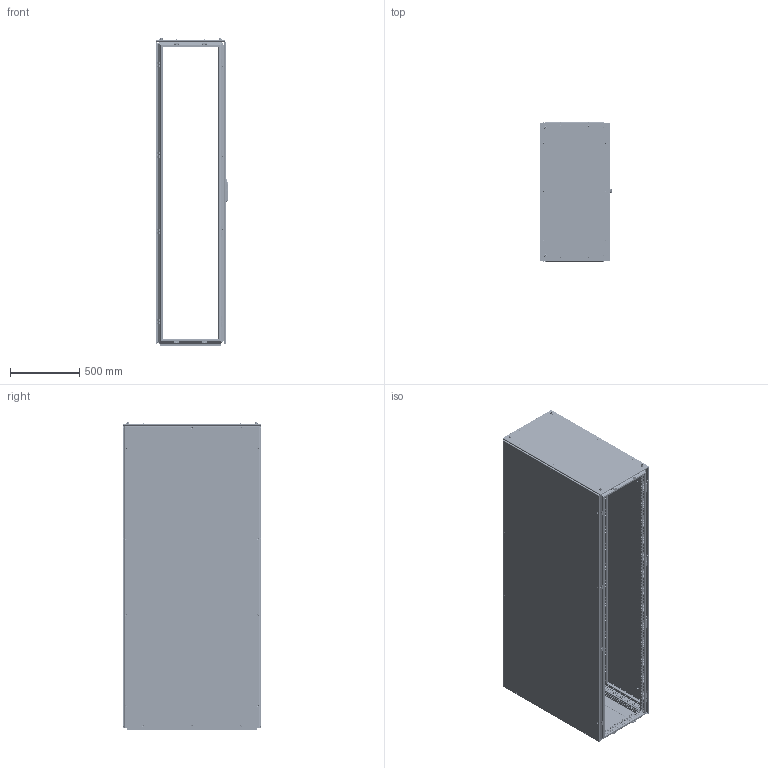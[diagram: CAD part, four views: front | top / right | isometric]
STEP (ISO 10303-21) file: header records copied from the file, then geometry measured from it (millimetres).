
FILE_DESCRIPTION(('STEP AP203'), '1');
FILE_NAME('ØÍÑ ÊÑ PRO II Êîðïóñ ÑÁ', '', ('UNSPECIFIED'), ('UNSPECIFIED'), 'C3D Converter', 'C3D Toolkit', '');
FILE_SCHEMA(('CONFIG_CONTROL_DESIGN'));
Length unit declared in the file: millimetre
Products named in the file (55): 3210.220.100.50; 3000; 3007.75; 3007.200; 3006; 3009.04; 3009.04.01; 3009.04.2; 3009.04.01.2; 3301; 3310; 3311; 3302; 3211; 3409; 3415; 3425; 3426; 3422.01; 3412; 3411; 2952; 3009.05; 3009.05.01; 3622.01; 3417; 3427; 3010
Assembly tree (389 placements, depth 6):
  3210.220.100.50
    3000
      3000
      (unnamed)  x96
      3007.75  x4
      (unnamed)  x18
      3007.200  x2
      3006
      3009.04  x10
        3009.04.01
        (unnamed)
        (unnamed)
      3009.04.2  x15
        3009.04.01.2
        (unnamed)
        (unnamed)
    3301
      3310
        3311
        (unnamed)
      (unnamed)  x10
      (unnamed)  x10
      (unnamed)  x4
      (unnamed)  x4
    3302
      3211
      (unnamed)  x2
      (unnamed)  x14
    3409
      3415
        3425
          3426
          3422.01  x4
          (unnamed)  x12
          (unnamed)  x8
          (unnamed)  x2
        3412  x2
        3411  x2
        (unnamed)  x4
        (unnamed)  x12
        (unnamed)  x20
        (unnamed)  x8
        2952
          (unnamed)
            (unnamed)
            (unnamed)
            (unnamed)
            (unnamed)
            (unnamed)
        (unnamed)  x2
        3009.05  x4
          3009.05.01
          (unnamed)
          (unnamed)
        3622.01  x4
        (unnamed)  x4
      3417
        3427
          3426
          3422.01  x4
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Bounding box: 523.93 x 997 x 2216 mm (x, y, z)
Volume: 14478026.7 mm3; surface area: 18444419.1 mm2
Topology: 502 solids, 502 shells, 28334 faces, 77556 edges, 50874 vertices
Faces by surface type: plane 18690, cylinder 6867, cone 1531, bspline 667, torus 450, extrusion 90, sphere 39
Full cylindrical faces by diameter (mm): 0.5 x32, 2.6 x8, 3.71 x8, 4.134 x144, 4.3 x2, 4.5 x2530, 4.8 x20, 4.917 x32, 5 x200, 5.2 x1, 5.5 x10, 5.8 x48, 6 x77, 6.1 x8, 6.4 x8, 6.6 x32, 6.75 x32, 6.8 x200, 7 x104, 7.3 x32, 7.5 x92, 8 x132, 8.3 x16, 8.5 x11, 9.2 x82, 10 x45, 10.106 x8, 10.5 x10, 11.5 x14, 12 x44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
Entity records: 704261 total; most frequent: CARTESIAN_POINT 269173, ORIENTED_EDGE 82938, DIRECTION 77357, EDGE_CURVE 41469, VECTOR 32021, LINE 31976, VERTEX_POINT 29021, EDGE_LOOP 27390
